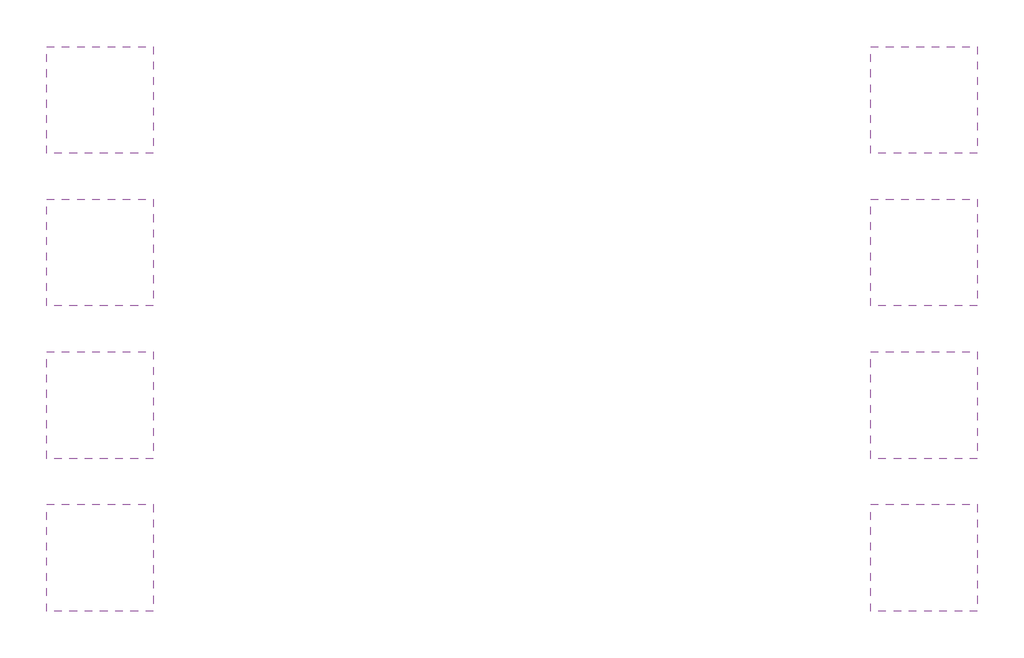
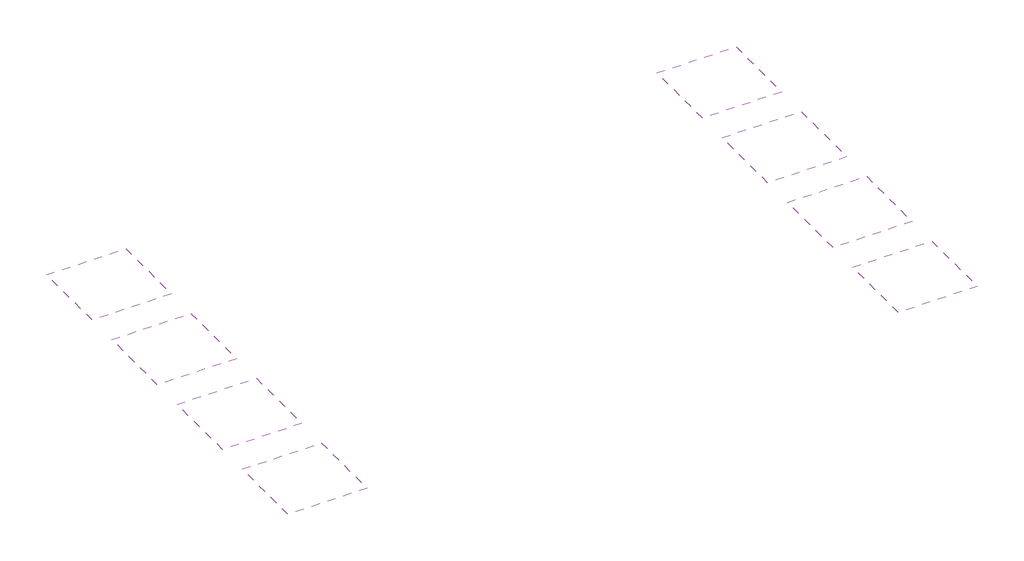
# One storey: 8 coverings.
"""IFC4 building model written with IfcOpenShell, lengths in millimetres."""

from ifc_helpers import new_model, si_unit, frame, origin, place, context, project, spatial, polyline, outline, extrude, element, save

model = new_model("IFC4")

# Units and contexts
model_context = context("Model", 3, world=origin())
ifc_project = project(units=[si_unit("LENGTHUNIT", "METRE", prefix="MILLI")], contexts=[model_context])

# Site, building, storey
site = spatial("IfcSite", under=ifc_project)
building = spatial("IfcBuilding", under=site)
storey = spatial("IfcBuildingStorey", under=building, Name="Gyptone Tile Series Edge D2", Elevation=0.0)

# Coverings
placement = place(None, origin())
element("IfcCovering", 1, ObjectType="Gyptone Tile Sixto 60 (600mm x 600mm)", at=placement, inside=storey, context=model_context, shape_type="SweptSolid", body=[
    extrude(outline(polyline([(1488.7108797, 1750.6340483), (1488.7108797, -5249.3659517), (-5511.2891203, -5249.3659517), (-5511.2891203, 1750.6340483), (1488.7108797, 1750.6340483)])), frame((0.0, 0.0, 2600.0), z_axis=(0.0, 0.0, 1.0), x_axis=(1.0, 0.0, 0.0)), (0.0, 0.0, 1.0), 12.5),
])
element("IfcCovering", 2, ObjectType="Gyptone Tile Line 4 (600mm x 600mm)", at=placement, inside=storey, context=model_context, shape_type="SweptSolid", body=[
    extrude(outline(polyline([(1488.7108797, -8249.3659517), (1488.7108797, -15249.3659517), (-5511.2891203, -15249.3659517), (-5511.2891203, -8249.3659517), (1488.7108797, -8249.3659517)])), frame((0.0, 0.0, 2600.0), z_axis=(0.0, 0.0, 1.0), x_axis=(1.0, 0.0, 0.0)), (0.0, 0.0, 1.0), 12.5),
])
element("IfcCovering", 3, ObjectType="Gyptone Tile Point 11 (600mm x 600mm)", at=placement, inside=storey, context=model_context, shape_type="SweptSolid", body=[
    extrude(outline(polyline([(1488.7108797, -18249.3659517), (1488.7108797, -25249.3659517), (-5511.2891203, -25249.3659517), (-5511.2891203, -18249.3659517), (1488.7108797, -18249.3659517)])), frame((0.0, 0.0, 2600.0), z_axis=(0.0, 0.0, 1.0), x_axis=(1.0, 0.0, 0.0)), (0.0, 0.0, 1.0), 12.5),
])
element("IfcCovering", 4, ObjectType="Gyptone Tile Point 12 (600mm x 600mm)", at=placement, inside=storey, context=model_context, shape_type="SweptSolid", body=[
    extrude(outline(polyline([(1488.7108797, -28249.3659517), (1488.7108797, -35249.3659517), (-5511.2891203, -35249.3659517), (-5511.2891203, -28249.3659517), (1488.7108797, -28249.3659517)])), frame((0.0, 0.0, 2600.0), z_axis=(0.0, 0.0, 1.0), x_axis=(1.0, 0.0, 0.0)), (0.0, 0.0, 1.0), 12.5),
])
element("IfcCovering", 5, ObjectType="Gyptone Tile Sixto 60 (600mm x 600mm)", at=placement, inside=storey, context=model_context, shape_type="SweptSolid", body=[
    extrude(outline(polyline([(55488.7108797, -28249.3659517), (55488.7108797, -35249.3659517), (48488.7108797, -35249.3659517), (48488.7108797, -28249.3659517), (55488.7108797, -28249.3659517)])), frame((0.0, 0.0, 2600.0), z_axis=(0.0, 0.0, 1.0), x_axis=(1.0, 0.0, 0.0)), (0.0, 0.0, 1.0), 12.5),
])
element("IfcCovering", 6, ObjectType="Gyptone Tile Quattro 20 (600mm x 600mm)", at=placement, inside=storey, context=model_context, shape_type="SweptSolid", body=[
    extrude(outline(polyline([(55488.7108797, 1750.6340483), (55488.7108797, -5249.3659517), (48488.7108797, -5249.3659517), (48488.7108797, 1750.6340483), (55488.7108797, 1750.6340483)])), frame((0.0, 0.0, 2600.0), z_axis=(0.0, 0.0, 1.0), x_axis=(1.0, 0.0, 0.0)), (0.0, 0.0, 1.0), 12.5),
])
element("IfcCovering", 7, ObjectType="Gyptone Tile Quattro 22 (600mm x 600mm)", at=placement, inside=storey, context=model_context, shape_type="SweptSolid", body=[
    extrude(outline(polyline([(55488.7108797, -8249.3659517), (55488.7108797, -15249.3659517), (48488.7108797, -15249.3659517), (48488.7108797, -8249.3659517), (55488.7108797, -8249.3659517)])), frame((0.0, 0.0, 2600.0), z_axis=(0.0, 0.0, 1.0), x_axis=(1.0, 0.0, 0.0)), (0.0, 0.0, 1.0), 12.5),
])
element("IfcCovering", 8, ObjectType="Gyptone Tile Quattro 50 (600mm x 600mm)", at=placement, inside=storey, context=model_context, shape_type="SweptSolid", body=[
    extrude(outline(polyline([(55488.7108797, -18249.3659517), (55488.7108797, -25249.3659517), (48488.7108797, -25249.3659517), (48488.7108797, -18249.3659517), (55488.7108797, -18249.3659517)])), frame((0.0, 0.0, 2600.0), z_axis=(0.0, 0.0, 1.0), x_axis=(1.0, 0.0, 0.0)), (0.0, 0.0, 1.0), 12.5),
])

save(model, "model.ifc")
